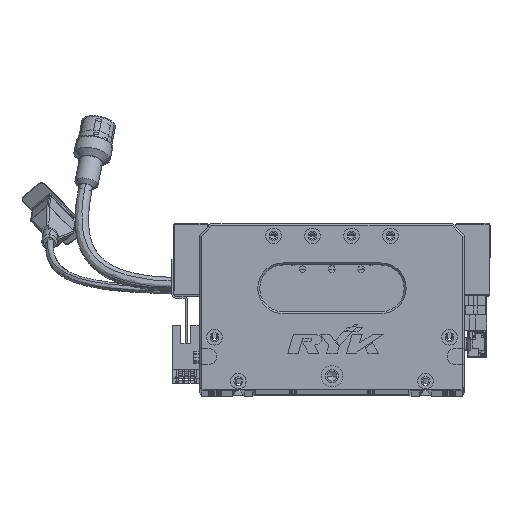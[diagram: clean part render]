
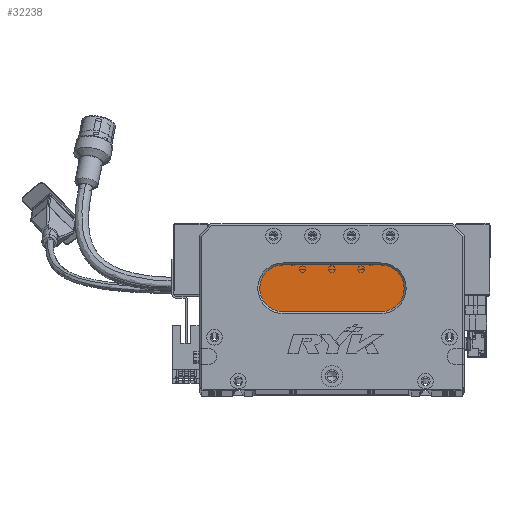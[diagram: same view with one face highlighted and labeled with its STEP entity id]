
A CAD part, top view. The second image highlights one B-rep face of the part: STEP entity #32238.
In plain terms, the highlighted planar face has unit normal (0, 0, 1) as drawn and (0, 0, -1) by its records, which use the part's own axes.
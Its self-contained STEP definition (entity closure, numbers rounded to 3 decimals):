
#680 = ORIENTED_EDGE ( 'NONE', *, *, #79790, .T. ) ;
#5312 = LINE ( 'NONE', #52661, #97775 ) ;
#11390 = AXIS2_PLACEMENT_3D ( 'NONE', #43889, #99689, #51917 ) ;
#13604 = DIRECTION ( 'NONE',  ( 0., 0., -1. ) ) ;
#18434 = CARTESIAN_POINT ( 'NONE',  ( 93., 52., 13. ) ) ;
#21496 = CARTESIAN_POINT ( 'NONE',  ( 43., 64., 13. ) ) ;
#28203 = VERTEX_POINT ( 'NONE', #21496 ) ;
#32238 = ADVANCED_FACE ( 'NONE', ( #81719 ), #82635, .T. ) ;
#35315 = VERTEX_POINT ( 'NONE', #72533 ) ;
#36030 = ORIENTED_EDGE ( 'NONE', *, *, #100588, .T. ) ;
#37546 = AXIS2_PLACEMENT_3D ( 'NONE', #18434, #66276, #67306 ) ;
#39647 = CIRCLE ( 'NONE', #11390, 12. ) ;
#39784 = VERTEX_POINT ( 'NONE', #46156 ) ;
#40420 = CARTESIAN_POINT ( 'NONE',  ( 31., 52., 13. ) ) ;
#43889 = CARTESIAN_POINT ( 'NONE',  ( 43., 52., 13. ) ) ;
#44976 = DIRECTION ( 'NONE',  ( 1., 0., 0. ) ) ;
#45987 = EDGE_LOOP ( 'NONE', ( #36030, #680, #89718, #70914, #70881 ) ) ;
#46156 = CARTESIAN_POINT ( 'NONE',  ( 43., 40., 13. ) ) ;
#48786 = AXIS2_PLACEMENT_3D ( 'NONE', #69171, #13604, #54097 ) ;
#51917 = DIRECTION ( 'NONE',  ( -1., 0., 0. ) ) ;
#52661 = CARTESIAN_POINT ( 'NONE',  ( 93., 64., 13. ) ) ;
#53088 = EDGE_CURVE ( 'NONE', #74689, #28203, #92216, .T. ) ;
#54097 = DIRECTION ( 'NONE',  ( -1., 0., 0. ) ) ;
#60143 = EDGE_CURVE ( 'NONE', #39784, #74689, #39647, .T. ) ;
#62360 = VERTEX_POINT ( 'NONE', #71224 ) ;
#62423 = CIRCLE ( 'NONE', #48786, 12. ) ;
#64106 = EDGE_CURVE ( 'NONE', #28203, #35315, #5312, .T. ) ;
#66276 = DIRECTION ( 'NONE',  ( 0., 0., -1. ) ) ;
#67306 = DIRECTION ( 'NONE',  ( -1., 0., 0. ) ) ;
#69171 = CARTESIAN_POINT ( 'NONE',  ( 93., 52., 13. ) ) ;
#70881 = ORIENTED_EDGE ( 'NONE', *, *, #64106, .T. ) ;
#70914 = ORIENTED_EDGE ( 'NONE', *, *, #53088, .T. ) ;
#71224 = CARTESIAN_POINT ( 'NONE',  ( 93., 40., 13. ) ) ;
#71504 = VECTOR ( 'NONE', #103201, 1000. ) ;
#72533 = CARTESIAN_POINT ( 'NONE',  ( 93., 64., 13. ) ) ;
#74689 = VERTEX_POINT ( 'NONE', #40420 ) ;
#76473 = AXIS2_PLACEMENT_3D ( 'NONE', #97833, #96778, #81111 ) ;
#79790 = EDGE_CURVE ( 'NONE', #62360, #39784, #86464, .T. ) ;
#81111 = DIRECTION ( 'NONE',  ( -1., 0., 0. ) ) ;
#81719 = FACE_OUTER_BOUND ( 'NONE', #45987, .T. ) ;
#82635 = PLANE ( 'NONE',  #37546 ) ;
#86464 = LINE ( 'NONE', #88499, #71504 ) ;
#88499 = CARTESIAN_POINT ( 'NONE',  ( 93., 40., 13. ) ) ;
#89718 = ORIENTED_EDGE ( 'NONE', *, *, #60143, .T. ) ;
#92216 = CIRCLE ( 'NONE', #76473, 12. ) ;
#96778 = DIRECTION ( 'NONE',  ( 0., 0., -1. ) ) ;
#97775 = VECTOR ( 'NONE', #44976, 1000. ) ;
#97833 = CARTESIAN_POINT ( 'NONE',  ( 43., 52., 13. ) ) ;
#99689 = DIRECTION ( 'NONE',  ( 0., 0., -1. ) ) ;
#100588 = EDGE_CURVE ( 'NONE', #35315, #62360, #62423, .T. ) ;
#103201 = DIRECTION ( 'NONE',  ( -1., 0., 0. ) ) ;
